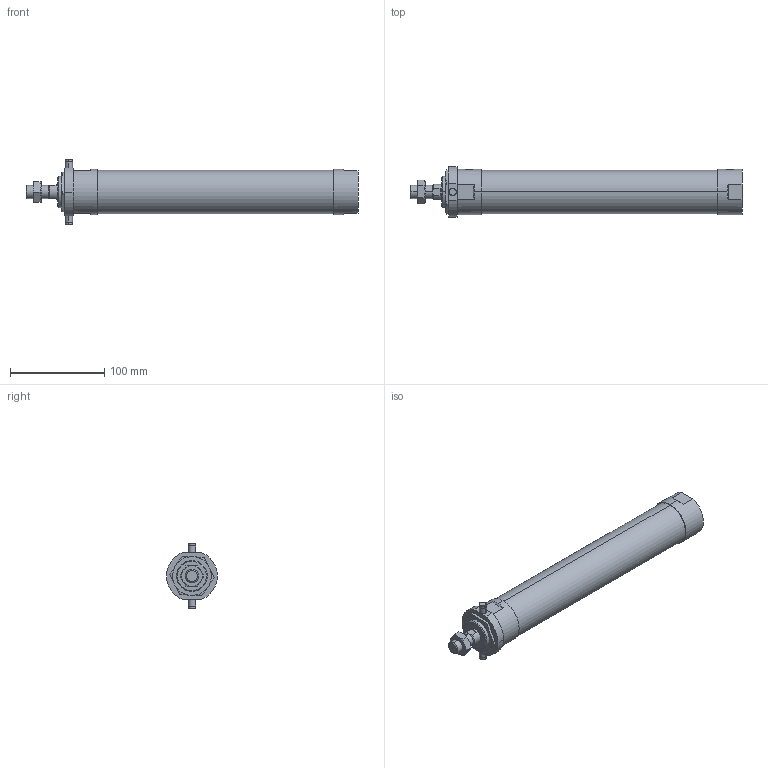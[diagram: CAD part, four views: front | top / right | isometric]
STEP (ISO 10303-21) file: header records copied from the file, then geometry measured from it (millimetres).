
FILE_DESCRIPTION (( 'STEP AP203' ), '1' );
FILE_NAME ('JGND2-40-200-T.STEP', '2016-08-04T03:14:43', ( '' ), ( '' ), 'SwSTEP 2.0', 'SolidWorks 2014', '' );
FILE_SCHEMA (( 'CONFIG_CONTROL_DESIGN' ));
Length unit declared in the file: millimetre
Products named in the file (5): J#2-40-200(P); JGND2-40-200-T; J#2-40-T
Assembly tree (4 placements, depth 2):
  JGND2-40-200-T
    J#2-40-200(P)
    (unnamed)
    (unnamed)
    J#2-40-T
Bounding box: 353 x 53.91 x 70 mm (x, y, z)
Volume: 544514.2 mm3; surface area: 61577.4 mm2
Topology: 4 solids, 4 shells, 116 faces, 269 edges, 165 vertices
Faces by surface type: plane 38, cylinder 33, torus 24, cone 21
Entity records: 4135 total; most frequent: CARTESIAN_POINT 1032, DIRECTION 550, ORIENTED_EDGE 530, EDGE_CURVE 265, AXIS2_PLACEMENT_3D 225, VERTEX_POINT 165, EDGE_LOOP 130, ADVANCED_FACE 116
